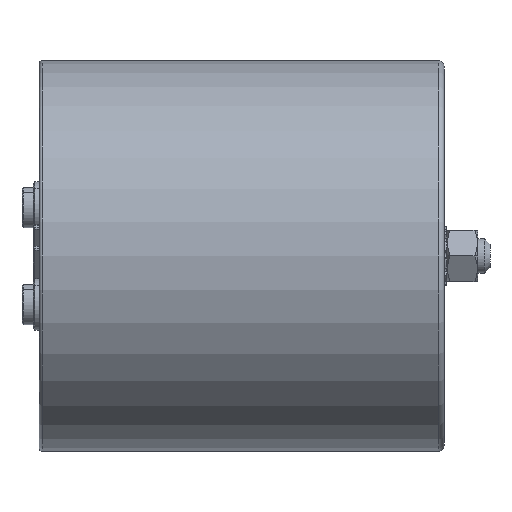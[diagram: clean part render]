
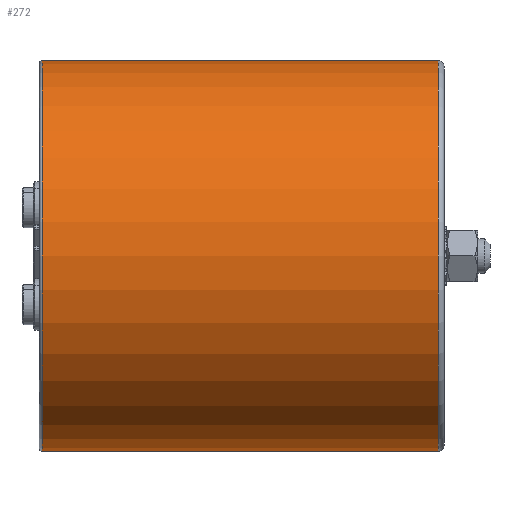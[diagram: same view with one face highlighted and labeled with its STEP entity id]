
A CAD part, left-side view. The second image highlights one B-rep face of the part: STEP entity #272.
In plain terms, the highlighted cylindrical face has radius 68 mm (diameter 136 mm), a partial arc.
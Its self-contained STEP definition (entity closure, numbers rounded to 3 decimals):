
#261 = ORIENTED_EDGE ( 'NONE', *, *, #5383, .T. ) ;
#272 = ADVANCED_FACE ( 'NONE', ( #8715 ), #4479, .T. ) ;
#411 = LINE ( 'NONE', #4983, #4490 ) ;
#433 = CARTESIAN_POINT ( 'NONE',  ( 0., -55., 0. ) ) ;
#793 = ORIENTED_EDGE ( 'NONE', *, *, #1436, .F. ) ;
#1059 = ORIENTED_EDGE ( 'NONE', *, *, #3808, .T. ) ;
#1212 = ORIENTED_EDGE ( 'NONE', *, *, #1994, .T. ) ;
#1436 = EDGE_CURVE ( 'NONE', #7207, #5595, #411, .T. ) ;
#1994 = EDGE_CURVE ( 'NONE', #7207, #6365, #2789, .T. ) ;
#2118 = AXIS2_PLACEMENT_3D ( 'NONE', #2961, #6607, #3750 ) ;
#2554 = CARTESIAN_POINT ( 'NONE',  ( 0., -139., -68. ) ) ;
#2789 = CIRCLE ( 'NONE', #2118, 68. ) ;
#2961 = CARTESIAN_POINT ( 'NONE',  ( 0., -139., 0. ) ) ;
#3103 = VECTOR ( 'NONE', #5211, 1000. ) ;
#3348 = DIRECTION ( 'NONE',  ( 0., 1., 0. ) ) ;
#3379 = CARTESIAN_POINT ( 'NONE',  ( 0., -1., -68. ) ) ;
#3750 = DIRECTION ( 'NONE',  ( 0., 0., -1. ) ) ;
#3808 = EDGE_CURVE ( 'NONE', #6365, #7190, #5564, .T. ) ;
#4009 = EDGE_LOOP ( 'NONE', ( #1212, #1059, #261, #793 ) ) ;
#4181 = AXIS2_PLACEMENT_3D ( 'NONE', #5361, #6859, #6151 ) ;
#4324 = DIRECTION ( 'NONE',  ( 0., 0., -1. ) ) ;
#4479 = CYLINDRICAL_SURFACE ( 'NONE', #4834, 68. ) ;
#4490 = VECTOR ( 'NONE', #7186, 1000. ) ;
#4834 = AXIS2_PLACEMENT_3D ( 'NONE', #433, #3348, #4324 ) ;
#4983 = CARTESIAN_POINT ( 'NONE',  ( 0., -55., -68. ) ) ;
#5149 = CARTESIAN_POINT ( 'NONE',  ( 0., -55., 68. ) ) ;
#5211 = DIRECTION ( 'NONE',  ( 0., 1., 0. ) ) ;
#5361 = CARTESIAN_POINT ( 'NONE',  ( 0., -1., 0. ) ) ;
#5383 = EDGE_CURVE ( 'NONE', #7190, #5595, #8317, .T. ) ;
#5564 = LINE ( 'NONE', #5149, #3103 ) ;
#5595 = VERTEX_POINT ( 'NONE', #3379 ) ;
#6151 = DIRECTION ( 'NONE',  ( 0., 0., 1. ) ) ;
#6365 = VERTEX_POINT ( 'NONE', #7690 ) ;
#6607 = DIRECTION ( 'NONE',  ( 0., 1., 0. ) ) ;
#6859 = DIRECTION ( 'NONE',  ( 0., -1., 0. ) ) ;
#6953 = CARTESIAN_POINT ( 'NONE',  ( 0., -1., 68. ) ) ;
#7186 = DIRECTION ( 'NONE',  ( 0., 1., 0. ) ) ;
#7190 = VERTEX_POINT ( 'NONE', #6953 ) ;
#7207 = VERTEX_POINT ( 'NONE', #2554 ) ;
#7690 = CARTESIAN_POINT ( 'NONE',  ( 0., -139., 68. ) ) ;
#8317 = CIRCLE ( 'NONE', #4181, 68. ) ;
#8715 = FACE_OUTER_BOUND ( 'NONE', #4009, .T. ) ;
